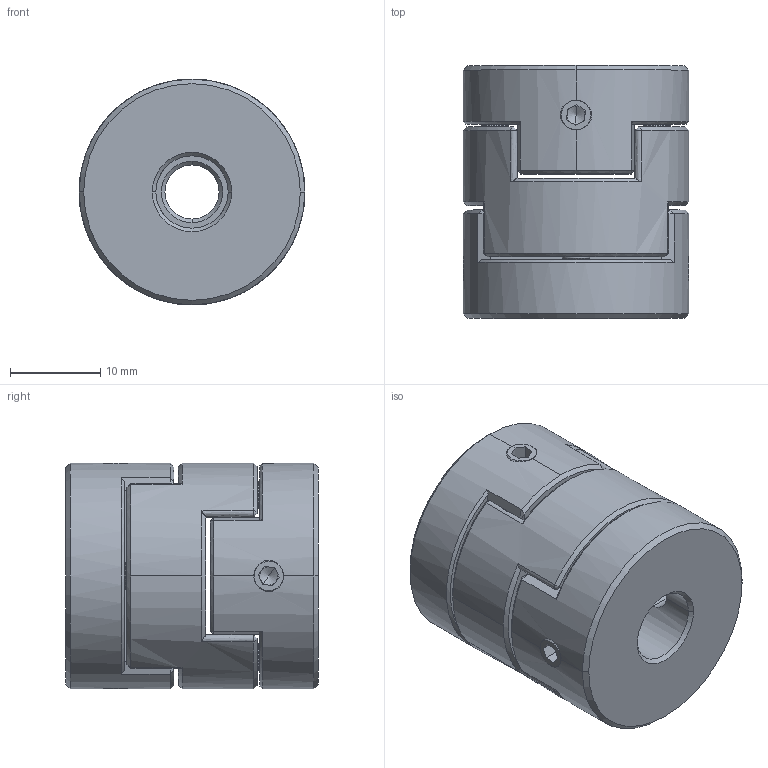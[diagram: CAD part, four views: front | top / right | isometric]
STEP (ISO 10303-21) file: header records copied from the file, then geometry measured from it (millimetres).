
FILE_DESCRIPTION (( 'STEP AP203' ), '1' );
FILE_NAME ('LZ-D-D25L28-6-8.STEP', '2021-10-30T02:10:47', ( '' ), ( '' ), 'SwSTEP 2.0', 'SolidWorks 2018', '' );
FILE_SCHEMA (( 'CONFIG_CONTROL_DESIGN' ));
Length unit declared in the file: millimetre
Products named in the file (1): LZ-D-D25L28-6-8
Bounding box: 25 x 28 x 25 mm (x, y, z)
Volume: 11782.9 mm3; surface area: 5548.1 mm2
Topology: 1 solids, 1 shells, 218 faces, 574 edges, 348 vertices
Faces by surface type: plane 88, cone 54, bspline 50, cylinder 26
Entity records: 9880 total; most frequent: CARTESIAN_POINT 4956, ORIENTED_EDGE 1132, DIRECTION 834, EDGE_CURVE 566, VERTEX_POINT 348, AXIS2_PLACEMENT_3D 303, EDGE_LOOP 234, LINE 228
